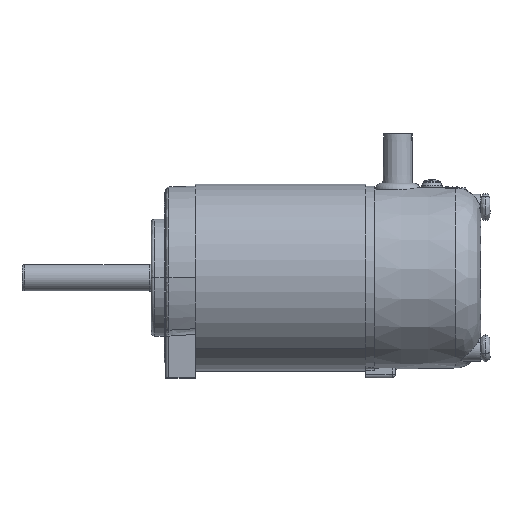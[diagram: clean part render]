
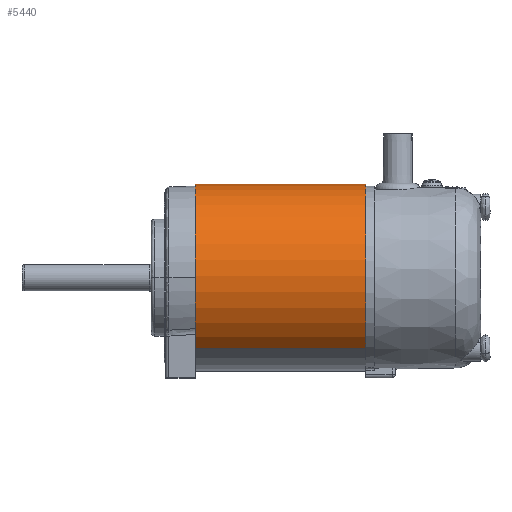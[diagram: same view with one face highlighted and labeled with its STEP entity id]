
A CAD part, top view. The second image highlights one B-rep face of the part: STEP entity #5440.
In plain terms, the highlighted cylindrical face has radius 27.94 mm (diameter 55.88 mm), a partial arc.
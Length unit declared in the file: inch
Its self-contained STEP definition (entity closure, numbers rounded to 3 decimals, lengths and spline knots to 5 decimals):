
#107 = CARTESIAN_POINT ( 'NONE',  ( 2.04308, 1.1811, 0. ) ) ;
#1809 = VERTEX_POINT ( 'NONE', #1826 ) ;
#1826 = CARTESIAN_POINT ( 'NONE',  ( 4.05008, 0.3486, 0.71898 ) ) ;
#2338 = VECTOR ( 'NONE', #22652, 39.37008 ) ;
#2899 = ORIENTED_EDGE ( 'NONE', *, *, #12635, .T. ) ;
#3058 = ORIENTED_EDGE ( 'NONE', *, *, #17618, .T. ) ;
#4825 = CARTESIAN_POINT ( 'NONE',  ( 3.04658, 0.3486, 0.71898 ) ) ;
#5040 = ORIENTED_EDGE ( 'NONE', *, *, #25194, .F. ) ;
#5440 = ADVANCED_FACE ( 'NONE', ( #16103 ), #9889, .T. ) ;
#5790 = EDGE_CURVE ( 'NONE', #1809, #16180, #15375, .T. ) ;
#6344 = CARTESIAN_POINT ( 'NONE',  ( 2.04308, 2.01361, -0.71898 ) ) ;
#6516 = CARTESIAN_POINT ( 'NONE',  ( 2.04308, 0.3486, 0.71898 ) ) ;
#7342 = DIRECTION ( 'NONE',  ( -1., 0., 0. ) ) ;
#7416 = EDGE_LOOP ( 'NONE', ( #14971, #2899, #3058, #5040 ) ) ;
#9889 = CYLINDRICAL_SURFACE ( 'NONE', #12442, 1.1 ) ;
#10678 = DIRECTION ( 'NONE',  ( -1., 0., 0. ) ) ;
#12442 = AXIS2_PLACEMENT_3D ( 'NONE', #18279, #13791, #18147 ) ;
#12635 = EDGE_CURVE ( 'NONE', #16180, #18095, #24220, .T. ) ;
#13216 = AXIS2_PLACEMENT_3D ( 'NONE', #21174, #10678, #21690 ) ;
#13791 = DIRECTION ( 'NONE',  ( -1., 0., 0. ) ) ;
#14738 = DIRECTION ( 'NONE',  ( 0., -0.757, 0.654 ) ) ;
#14971 = ORIENTED_EDGE ( 'NONE', *, *, #5790, .T. ) ;
#15375 = CIRCLE ( 'NONE', #13216, 1.1 ) ;
#16103 = FACE_OUTER_BOUND ( 'NONE', #7416, .T. ) ;
#16180 = VERTEX_POINT ( 'NONE', #21283 ) ;
#16552 = CIRCLE ( 'NONE', #24105, 1.1 ) ;
#17184 = VECTOR ( 'NONE', #7342, 39.37008 ) ;
#17618 = EDGE_CURVE ( 'NONE', #18095, #24039, #16552, .T. ) ;
#18095 = VERTEX_POINT ( 'NONE', #6344 ) ;
#18147 = DIRECTION ( 'NONE',  ( 0., -0.757, 0.654 ) ) ;
#18279 = CARTESIAN_POINT ( 'NONE',  ( 3.04658, 1.1811, 0. ) ) ;
#19365 = LINE ( 'NONE', #4825, #17184 ) ;
#19904 = CARTESIAN_POINT ( 'NONE',  ( 3.04658, 2.01361, -0.71898 ) ) ;
#20934 = DIRECTION ( 'NONE',  ( 1., 0., 0. ) ) ;
#21174 = CARTESIAN_POINT ( 'NONE',  ( 4.05008, 1.1811, 0. ) ) ;
#21283 = CARTESIAN_POINT ( 'NONE',  ( 4.05008, 2.01361, -0.71898 ) ) ;
#21690 = DIRECTION ( 'NONE',  ( 0., -0.757, 0.654 ) ) ;
#22652 = DIRECTION ( 'NONE',  ( -1., 0., 0. ) ) ;
#24039 = VERTEX_POINT ( 'NONE', #6516 ) ;
#24105 = AXIS2_PLACEMENT_3D ( 'NONE', #107, #20934, #14738 ) ;
#24220 = LINE ( 'NONE', #19904, #2338 ) ;
#25194 = EDGE_CURVE ( 'NONE', #1809, #24039, #19365, .T. ) ;
